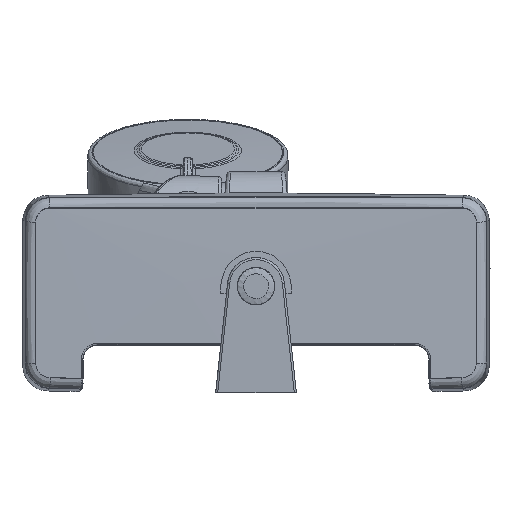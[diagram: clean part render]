
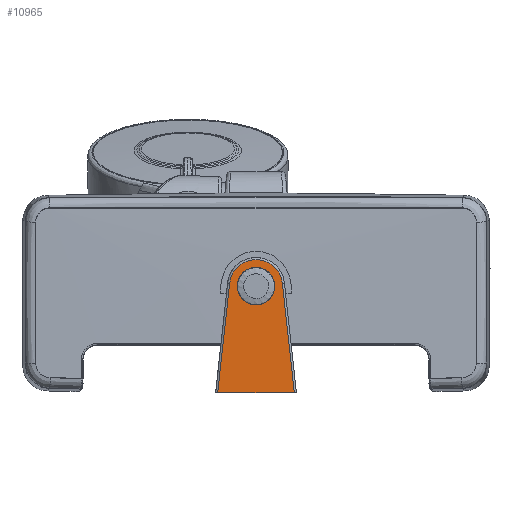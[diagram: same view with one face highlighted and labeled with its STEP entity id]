
A CAD part, front view. The second image highlights one B-rep face of the part: STEP entity #10965.
In plain terms, the highlighted planar face has unit normal (0, -1, 0).
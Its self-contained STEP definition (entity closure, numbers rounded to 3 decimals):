
#140 = LINE ( 'NONE', #5121, #743 ) ;
#199 = ORIENTED_EDGE ( 'NONE', *, *, #8812, .T. ) ;
#258 = VERTEX_POINT ( 'NONE', #8542 ) ;
#743 = VECTOR ( 'NONE', #18014, 1000. ) ;
#1132 = DIRECTION ( 'NONE',  ( -0.108, 0., 0.994 ) ) ;
#1621 = DIRECTION ( 'NONE',  ( 0., 1., 0. ) ) ;
#2443 = CARTESIAN_POINT ( 'NONE',  ( -12.502, -350.5, 51.864 ) ) ;
#2780 = CARTESIAN_POINT ( 'NONE',  ( 0., -350.5, 50.5 ) ) ;
#3117 = AXIS2_PLACEMENT_3D ( 'NONE', #10251, #1621, #13997 ) ;
#4658 = DIRECTION ( 'NONE',  ( 1., 0., 0. ) ) ;
#5121 = CARTESIAN_POINT ( 'NONE',  ( -18.173, -350.5, -0.128 ) ) ;
#5438 = EDGE_LOOP ( 'NONE', ( #199, #16512, #12224, #7012 ) ) ;
#5859 = EDGE_CURVE ( 'NONE', #10917, #10917, #12199, .T. ) ;
#6575 = CARTESIAN_POINT ( 'NONE',  ( 18.161, -350.5, -0.02 ) ) ;
#7012 = ORIENTED_EDGE ( 'NONE', *, *, #21091, .T. ) ;
#7412 = FACE_OUTER_BOUND ( 'NONE', #5438, .T. ) ;
#7654 = FACE_BOUND ( 'NONE', #13660, .T. ) ;
#8266 = VERTEX_POINT ( 'NONE', #11003 ) ;
#8398 = VERTEX_POINT ( 'NONE', #6575 ) ;
#8542 = CARTESIAN_POINT ( 'NONE',  ( -18.161, -350.5, -0.02 ) ) ;
#8812 = EDGE_CURVE ( 'NONE', #8266, #22824, #14945, .T. ) ;
#8862 = DIRECTION ( 'NONE',  ( 0., 1., 0. ) ) ;
#9664 = AXIS2_PLACEMENT_3D ( 'NONE', #19719, #8862, #21502 ) ;
#10251 = CARTESIAN_POINT ( 'NONE',  ( 0., -350.5, 50.5 ) ) ;
#10917 = VERTEX_POINT ( 'NONE', #22359 ) ;
#10965 = ADVANCED_FACE ( 'NONE', ( #7654, #7412 ), #12128, .F. ) ;
#11003 = CARTESIAN_POINT ( 'NONE',  ( 12.502, -350.5, 51.864 ) ) ;
#12128 = PLANE ( 'NONE',  #3117 ) ;
#12199 = CIRCLE ( 'NONE', #9664, 8.9 ) ;
#12224 = ORIENTED_EDGE ( 'NONE', *, *, #22831, .F. ) ;
#12372 = CARTESIAN_POINT ( 'NONE',  ( 12.502, -350.5, 51.864 ) ) ;
#13374 = ORIENTED_EDGE ( 'NONE', *, *, #5859, .T. ) ;
#13660 = EDGE_LOOP ( 'NONE', ( #13374 ) ) ;
#13997 = DIRECTION ( 'NONE',  ( 1., 0., 0. ) ) ;
#14906 = EDGE_CURVE ( 'NONE', #22824, #258, #140, .T. ) ;
#14945 = CIRCLE ( 'NONE', #17777, 12.576 ) ;
#15229 = VECTOR ( 'NONE', #17399, 1000. ) ;
#15527 = LINE ( 'NONE', #20730, #15229 ) ;
#15783 = DIRECTION ( 'NONE',  ( 0., -1., 0. ) ) ;
#16512 = ORIENTED_EDGE ( 'NONE', *, *, #14906, .T. ) ;
#17399 = DIRECTION ( 'NONE',  ( -1., 0., 0. ) ) ;
#17777 = AXIS2_PLACEMENT_3D ( 'NONE', #2780, #15783, #4658 ) ;
#18014 = DIRECTION ( 'NONE',  ( -0.108, 0., -0.994 ) ) ;
#19719 = CARTESIAN_POINT ( 'NONE',  ( 0., -350.5, 50.5 ) ) ;
#20730 = CARTESIAN_POINT ( 'NONE',  ( -19.167, -350.5, -0.02 ) ) ;
#20987 = LINE ( 'NONE', #12372, #21277 ) ;
#21091 = EDGE_CURVE ( 'NONE', #8398, #8266, #20987, .T. ) ;
#21277 = VECTOR ( 'NONE', #1132, 1000. ) ;
#21502 = DIRECTION ( 'NONE',  ( 0., 0., 1. ) ) ;
#22359 = CARTESIAN_POINT ( 'NONE',  ( 0., -350.5, 59.4 ) ) ;
#22824 = VERTEX_POINT ( 'NONE', #2443 ) ;
#22831 = EDGE_CURVE ( 'NONE', #8398, #258, #15527, .T. ) ;
